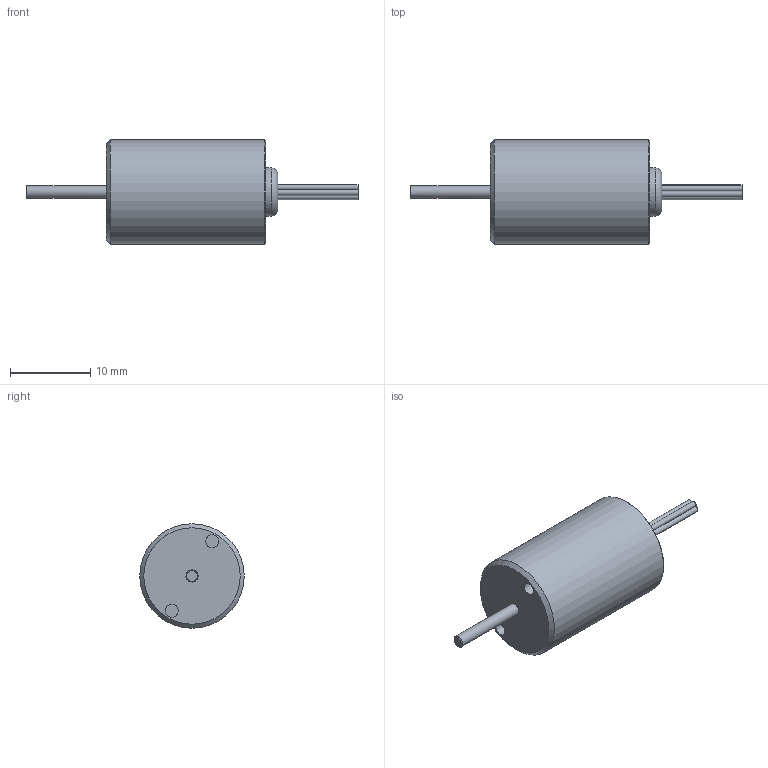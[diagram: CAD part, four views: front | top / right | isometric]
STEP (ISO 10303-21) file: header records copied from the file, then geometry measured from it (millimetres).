
FILE_DESCRIPTION(('STEP AP203'),'1');
FILE_NAME('L0H01 MES-9P.stp','2023-06-27T05:14:25',(' '),(' '),'Spatial InterOp 3D',' ',' ');
FILE_SCHEMA(('CONFIG_CONTROL_DESIGN'));
Length unit declared in the file: millimetre
Products named in the file (1): L0H01 MES-9P
Bounding box: 41.3 x 13 x 13 mm (x, y, z)
Volume: 2683.7 mm3; surface area: 1277.9 mm2
Topology: 1 solids, 1 shells, 27 faces, 46 edges, 30 vertices
Faces by surface type: cylinder 12, plane 11, cone 3, torus 1
Full cylindrical faces by diameter (mm): 0.7 x5, 1.5 x1, 1.6 x4, 6 x1, 13 x1
Entity records: 620 total; most frequent: DIRECTION 108, CARTESIAN_POINT 80, AXIS2_PLACEMENT_3D 54, EDGE_LOOP 52, ORIENTED_EDGE 52, FACE_OUTER_BOUND 40, ADVANCED_FACE 27, EDGE_CURVE 26
